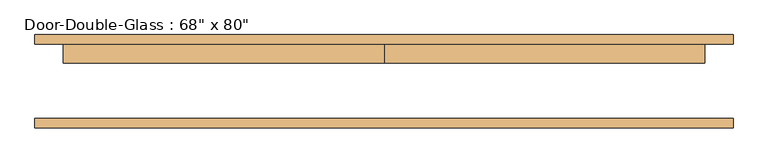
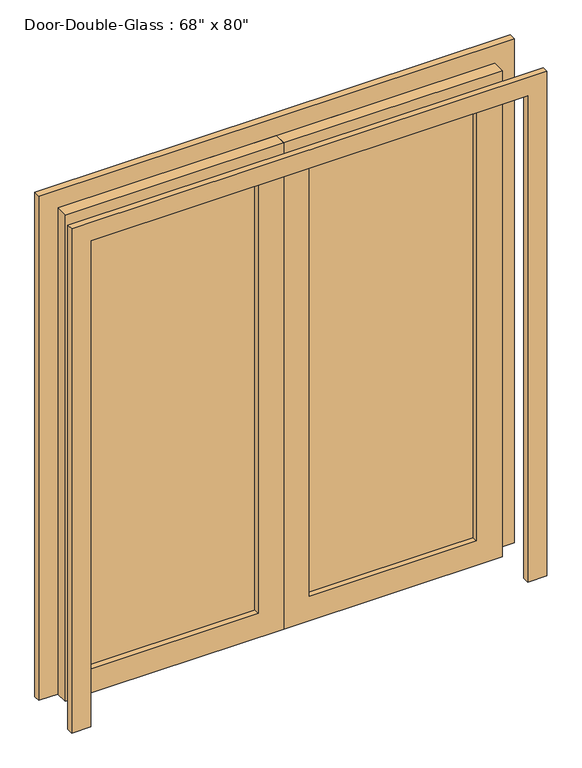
"""IFC4 building model written with IfcOpenShell, lengths in millimetres: door geometry."""

import ifcopenshell
import ifcopenshell.guid

model = None  # the IFC model being written
_history = None  # IfcOwnerHistory: only IFC2X3 demands one
_inside = {}  # id of a spatial element -> (the spatial element, [elements in it])
_under = {}  # id of a project, library or spatial element -> (it, [spatial elements below it])
_declared = {}  # id of a project -> (the project, [libraries it declares])
_typed = {}  # id of a type object -> (the type object, [elements of that type])
_made_of = {}  # id of a material, layer set ... -> (it, [elements and type objects made of it])


def new_model(schema):
    """Start an empty IFC model of exactly this schema.

    Asked for "IFC4X3", IfcOpenShell would pick the latest addendum, in which some entities
    have other attributes; the version numbers below select the first issue.
    IFC2X3 requires an IfcOwnerHistory on every rooted entity: one is made here for all.
    """
    global model, _history
    if schema == "IFC4X3":
        model = ifcopenshell.file(schema_version=(4, 3, 0, 0))
    else:
        model = ifcopenshell.file(schema=schema)
    _inside.clear()
    _under.clear()
    _declared.clear()
    _typed.clear()
    _made_of.clear()
    _history = None
    if model.schema == "IFC2X3":
        org = make("IfcOrganization", Name="unknown")
        user = make(
            "IfcPersonAndOrganization",
            ThePerson=make("IfcPerson", FamilyName="unknown"),
            TheOrganization=org,
        )
        app = make(
            "IfcApplication",
            ApplicationDeveloper=org,
            Version="unknown",
            ApplicationFullName="unknown",
            ApplicationIdentifier="unknown",
        )
        _history = make(
            "IfcOwnerHistory",
            OwningUser=user,
            OwningApplication=app,
            ChangeAction="ADDED",
            CreationDate=0,
        )
    return model


def make(cls, **values):
    """One entity of the class cls with the attributes given. An attribute that is None is left unset."""
    return model.create_entity(
        cls, **{name: value for name, value in values.items() if value is not None}
    )


def rooted(cls, **values):
    """An entity with a GlobalId (a new one), such as an element, a storey or a relation."""
    return make(cls, GlobalId=ifcopenshell.guid.new(), OwnerHistory=_history, **values)


def si_unit(unit_type, name, prefix=None):
    """IfcSIUnit, for example si_unit("LENGTHUNIT", "METRE", prefix="MILLI")."""
    return make("IfcSIUnit", UnitType=unit_type, Prefix=prefix, Name=name)


def assignment(units):
    """IfcUnitAssignment: the units of a project."""
    return None if units is None else make("IfcUnitAssignment", Units=units)


def point(xyz):
    """IfcCartesianPoint."""
    return None if xyz is None else make("IfcCartesianPoint", Coordinates=xyz)


def direction(xyz):
    """IfcDirection."""
    return None if xyz is None else make("IfcDirection", DirectionRatios=xyz)


def frame(location, z_axis=None, x_axis=None):
    """IfcAxis2Placement3D, a coordinate frame: its origin and axes. An axis left out is left unset."""
    return make(
        "IfcAxis2Placement3D",
        Location=point(location),
        Axis=direction(z_axis),
        RefDirection=direction(x_axis),
    )


def origin():
    """The frame at (0, 0, 0) with its axes left unset."""
    return frame((0.0, 0.0, 0.0))


def place(relative_to, where):
    """IfcLocalPlacement: puts the frame where relative to a parent placement (None: the world)."""
    return make(
        "IfcLocalPlacement", PlacementRelTo=relative_to, RelativePlacement=where
    )


def context(
    kind, dimensions, precision=None, world=None, true_north=None, identifier=None
):
    """IfcGeometricRepresentationContext, for example the 3D "Model" context."""
    return make(
        "IfcGeometricRepresentationContext",
        ContextIdentifier=identifier,
        ContextType=kind,
        CoordinateSpaceDimension=dimensions,
        Precision=precision,
        WorldCoordinateSystem=world,
        TrueNorth=true_north,
    )


def project(units=None, contexts=None):
    """IfcProject with its units and contexts."""
    return rooted(
        "IfcProject",
        Name="project",
        RepresentationContexts=contexts,
        UnitsInContext=assignment(units),
    )


def spatial(cls, under=None, at=None, **own):
    """A site, building, storey or space (cls), placed at a placement, below another one or the project."""
    s = rooted(cls, ObjectPlacement=at, **own)
    if under is not None:
        _under.setdefault(under.id(), (under, []))[1].append(s)
    return s


def polyline(points):
    """IfcPolyline through the points."""
    return make("IfcPolyline", Points=[point(p) for p in points])


def outline(outer, holes=None, kind="AREA"):
    """IfcArbitraryClosedProfileDef: a profile drawn as a closed curve; with holes, ...WithVoids."""
    if holes is None:
        return make("IfcArbitraryClosedProfileDef", ProfileType=kind, OuterCurve=outer)
    return make(
        "IfcArbitraryProfileDefWithVoids",
        ProfileType=kind,
        OuterCurve=outer,
        InnerCurves=holes,
    )


def extrude(swept, where, along, depth):
    """IfcExtrudedAreaSolid: the profile swept, set in the frame where, extruded along a direction by depth."""
    return make(
        "IfcExtrudedAreaSolid",
        SweptArea=swept,
        Position=where,
        ExtrudedDirection=direction(along),
        Depth=depth,
    )


def shape(context_of_items, identifier, shape_type, items):
    """IfcShapeRepresentation: the items that make up one representation, for example the "Body"."""
    return make(
        "IfcShapeRepresentation",
        ContextOfItems=context_of_items,
        RepresentationIdentifier=identifier,
        RepresentationType=shape_type,
        Items=items,
    )


def source(mapping_origin, context_of_items, identifier, shape_type, items):
    """IfcRepresentationMap: a shape defined once, which mapped items show again and again."""
    return make(
        "IfcRepresentationMap",
        MappingOrigin=mapping_origin,
        MappedRepresentation=shape(context_of_items, identifier, shape_type, items),
    )


def transform(
    local_origin,
    x_axis=None,
    y_axis=None,
    z_axis=None,
    scale=None,
    scale2=None,
    scale3=None,
    uniform=True,
):
    """IfcCartesianTransformationOperator3D, or its non-uniform kind. x_axis, y_axis, z_axis: its Axis1, 2, 3."""
    if uniform:
        return make(
            "IfcCartesianTransformationOperator3D",
            Axis1=direction(x_axis),
            Axis2=direction(y_axis),
            LocalOrigin=point(local_origin),
            Scale=scale,
            Axis3=direction(z_axis),
        )
    return make(
        "IfcCartesianTransformationOperator3DnonUniform",
        Axis1=direction(x_axis),
        Axis2=direction(y_axis),
        LocalOrigin=point(local_origin),
        Scale=scale,
        Axis3=direction(z_axis),
        Scale2=scale2,
        Scale3=scale3,
    )


def mapped(mapping_source, mapping_target):
    """IfcMappedItem: shows the shape of a source again, moved by a transform."""
    return make(
        "IfcMappedItem", MappingSource=mapping_source, MappingTarget=mapping_target
    )


def made_of(thing, what):
    """Note that an element or type object is made of a material, layer set ...; save() writes the relation."""
    if what is not None:
        _made_of.setdefault(what.id(), (what, []))[1].append(thing)
    return thing


def element(
    cls,
    number,
    at=None,
    inside=None,
    cuts=None,
    type_object=None,
    material=None,
    context=None,
    identifier="Body",
    shape_type=None,
    held_by="IfcProductDefinitionShape",
    body=None,
    shapes=None,
    **own,
):
    """One element of the class cls, such as IfcWall. Its Tag is "e" and its number.

    at: its placement. inside: the storey or other place that contains it. cuts: it is an
    opening in that element (IfcRelVoidsElement). A single representation is given by context,
    identifier, shape_type and body (its items); several are given by shapes. held_by: the class
    of the entity that holds the representations. save() writes the other relations.
    """
    e = rooted(cls, Tag="e%d" % number, ObjectPlacement=at, **own)
    if body is not None:
        shapes = [shape(context, identifier, shape_type, body)]
    if shapes is not None:
        e.Representation = make(held_by, Representations=shapes)
    if inside is not None:
        _inside.setdefault(inside.id(), (inside, []))[1].append(e)
    if cuts is not None:
        rooted(
            "IfcRelVoidsElement", RelatingBuildingElement=cuts, RelatedOpeningElement=e
        )
    if type_object is not None:
        _typed.setdefault(type_object.id(), (type_object, []))[1].append(e)
    return made_of(e, material)


def aggregate(whole, parts):
    """IfcRelAggregates: a whole, such as a stair, and the parts it consists of."""
    return rooted("IfcRelAggregates", RelatingObject=whole, RelatedObjects=parts)


def save(model, path):
    """Write the relations noted so far, then the file.

    IfcRelAggregates (storeys below a building ...), IfcRelContainedInSpatialStructure (elements
    in a storey), IfcRelDefinesByType, IfcRelAssociatesMaterial and IfcRelDeclares: one each for
    every whole, place, type object, material and project.
    """
    for whole, parts in _under.values():
        aggregate(whole, parts)
    for where, things in _inside.values():
        rooted(
            "IfcRelContainedInSpatialStructure",
            RelatedElements=things,
            RelatingStructure=where,
        )
    for kind, things in _typed.values():
        rooted("IfcRelDefinesByType", RelatedObjects=things, RelatingType=kind)
    for what, things in _made_of.values():
        rooted("IfcRelAssociatesMaterial", RelatedObjects=things, RelatingMaterial=what)
    for by, libraries in _declared.values():
        rooted("IfcRelDeclares", RelatingContext=by, RelatedDefinitions=libraries)
    model.write(path)


def door_d93d8e0c(model_context):
    return source(origin(), model_context, "Body", "SweptSolid", [
        extrude(outline(polyline([(2032.0, -863.6), (0.0, -863.6), (0.0, 0.0), (2032.0, 0.0), (2032.0, -863.6)]), holes=[polyline([(1930.4, -762.0), (1930.4, -101.6), (101.6, -101.6), (101.6, -762.0), (1930.4, -762.0)])]), frame((0.0, 51.58125, 0.0), z_axis=(0.0, 1.0, 0.0), x_axis=(0.0, 0.0, 1.0)), (0.0, 0.0, 1.0), 50.8),
        extrude(outline(polyline([(2032.0, 863.6), (2032.0, 0.0), (0.0, 0.0), (0.0, 863.6), (2032.0, 863.6)]), holes=[polyline([(1930.4, 762.0), (101.6, 762.0), (101.6, 101.6), (1930.4, 101.6), (1930.4, 762.0)])]), frame((0.0, 51.58125, 0.0), z_axis=(0.0, 1.0, 0.0), x_axis=(0.0, 0.0, 1.0)), (0.0, 0.0, 1.0), 50.8),
        extrude(outline(polyline([(101.6, 80.15625), (762.0, 80.15625), (762.0, 73.80625), (101.6, 73.80625), (101.6, 80.15625)])), frame((0.0, 0.0, 101.6), z_axis=(0.0, 0.0, 1.0), x_axis=(1.0, 0.0, 0.0)), (0.0, 0.0, 1.0), 1828.8),
        extrude(outline(polyline([(-762.0, 80.15625), (-101.6, 80.15625), (-101.6, 73.80625), (-762.0, 73.80625), (-762.0, 80.15625)])), frame((0.0, 0.0, 101.6), z_axis=(0.0, 0.0, 1.0), x_axis=(1.0, 0.0, 0.0)), (0.0, 0.0, 1.0), 1828.8),
        extrude(outline(polyline([(0.0, 939.8), (2108.2, 939.8), (2108.2, -939.8), (0.0, -939.8), (0.0, -863.6), (2032.0, -863.6), (2032.0, 863.6), (0.0, 863.6), (0.0, 939.8)])), frame((0.0, 102.38125, 0.0), z_axis=(0.0, 1.0, 0.0), x_axis=(0.0, 0.0, 1.0)), (0.0, 0.0, 1.0), 25.4),
        extrude(outline(polyline([(0.0, 939.8), (2108.2, 939.8), (2108.2, -939.8), (0.0, -939.8), (0.0, -863.6), (2032.0, -863.6), (2032.0, 863.6), (0.0, 863.6), (0.0, 939.8)])), frame((0.0, -123.01875, 0.0), z_axis=(0.0, 1.0, 0.0), x_axis=(0.0, 0.0, 1.0)), (0.0, 0.0, 1.0), 25.4),
    ])


if __name__ == "__main__":
    model = new_model("IFC4")
    model_context = context("Model", 3, world=origin())
    ifc_project = project(units=[si_unit("LENGTHUNIT", "METRE", prefix="MILLI")], contexts=[model_context])
    site = spatial("IfcSite", under=ifc_project)
    building = spatial("IfcBuilding", under=site)
    placement = place(None, origin())
    door_shape = door_d93d8e0c(model_context)
    element("IfcDoor", 1, ObjectType="Door-Double-Glass : 68\" x 80\"", at=placement, inside=building, context=model_context, shape_type="MappedRepresentation", body=[
        mapped(door_shape, transform((0.0, 0.0, 0.0), x_axis=(1.0, 0.0, 0.0), y_axis=(0.0, 1.0, 0.0), z_axis=(0.0, 0.0, 1.0))),
    ])
    save(model, "model.ifc")
